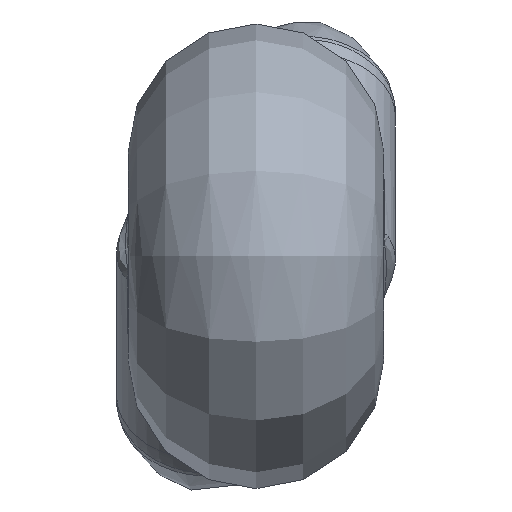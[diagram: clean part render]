
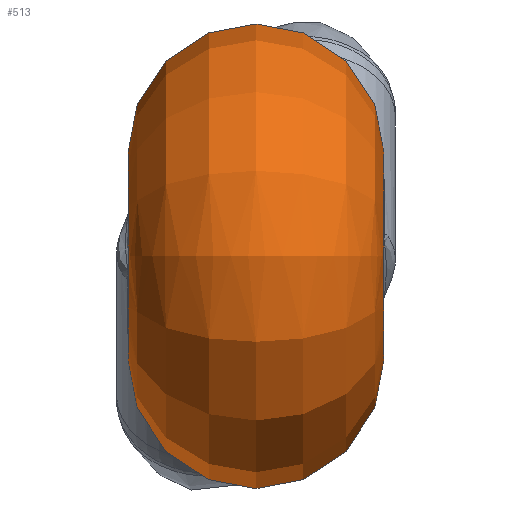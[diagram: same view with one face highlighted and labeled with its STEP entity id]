
A CAD part, left-side view. The second image highlights one B-rep face of the part: STEP entity #513.
In plain terms, the highlighted free-form (B-spline) face has degree [2, 2] with [5, 9] control points.
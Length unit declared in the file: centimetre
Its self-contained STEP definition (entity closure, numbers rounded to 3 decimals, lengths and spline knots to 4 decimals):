
#16=(
BOUNDED_CURVE()
B_SPLINE_CURVE(2,(#1909,#1910,#1911,#1912,#1913),.UNSPECIFIED.,.F.,.F.)
B_SPLINE_CURVE_WITH_KNOTS((3,2,3),(-1.5708,0.,
1.5708),.UNSPECIFIED.)
CURVE()
GEOMETRIC_REPRESENTATION_ITEM()
RATIONAL_B_SPLINE_CURVE((1.,0.707,1.,0.707,1.))
REPRESENTATION_ITEM('')
);
#17=(
BOUNDED_SURFACE()
B_SPLINE_SURFACE(2,2,((#1861,#1862,#1863,#1864,#1865,#1866,#1867,#1868,
#1869),(#1870,#1871,#1872,#1873,#1874,#1875,#1876,#1877,#1878),(#1879,#1880,
#1881,#1882,#1883,#1884,#1885,#1886,#1887),(#1888,#1889,#1890,#1891,#1892,
#1893,#1894,#1895,#1896),(#1897,#1898,#1899,#1900,#1901,#1902,#1903,#1904,
#1905)),.UNSPECIFIED.,.F.,.T.,.F.)
B_SPLINE_SURFACE_WITH_KNOTS((3,2,3),(3,2,2,2,3),(-1.5708,0.,
1.5708),(-3.1416,-1.5708,0.,1.5708,
3.1416),.UNSPECIFIED.)
GEOMETRIC_REPRESENTATION_ITEM()
RATIONAL_B_SPLINE_SURFACE(((1.,0.707,1.,0.707,1.,
0.707,1.,0.707,1.),(0.707,0.5,0.707,
0.5,0.707,0.5,0.707,0.5,0.707),(1.,
0.707,1.,0.707,1.,0.707,1.,0.707,
1.),(0.707,0.5,0.707,0.5,0.707,0.5,
0.707,0.5,0.707),(1.,0.707,1.,0.707,
1.,0.707,1.,0.707,1.)))
REPRESENTATION_ITEM('')
SURFACE()
);
#72=B_SPLINE_CURVE_WITH_KNOTS('',3,(#1839,#1840,#1841,#1842,#1843,#1844,
#1845,#1846,#1847,#1848,#1849,#1850,#1851,#1852,#1853,#1854,#1855),
 .UNSPECIFIED.,.F.,.F.,(4,1,1,1,1,1,1,1,1,1,1,1,1,1,4),(-1.3906,
-1.3161,-1.2913,-1.1919,-0.9933,
-0.894,-0.7946,-0.7201,-0.596,
-0.4966,-0.3973,-0.298,-0.1987,
-0.0993,0.),.UNSPECIFIED.);
#73=B_SPLINE_CURVE_WITH_KNOTS('',3,(#1917,#1918,#1919,#1920,#1921,#1922,
#1923,#1924,#1925,#1926,#1927,#1928,#1929,#1930,#1931,#1932,#1933),
 .UNSPECIFIED.,.F.,.F.,(4,1,1,1,1,1,1,1,1,1,1,1,1,1,4),(-1.3906,
-1.3161,-1.2913,-1.192,-0.9933,
-0.894,-0.7946,-0.6953,-0.596,
-0.4967,-0.3973,-0.298,-0.1987,
-0.0993,0.),.UNSPECIFIED.);
#120=FACE_OUTER_BOUND('',#159,.T.);
#159=EDGE_LOOP('',(#401,#402,#403,#404,#405,#406,#407,#408));
#192=CIRCLE('',#552,0.225);
#193=CIRCLE('',#553,0.225);
#194=CIRCLE('',#554,0.225);
#195=CIRCLE('',#555,0.225);
#234=VERTEX_POINT('',#1836);
#235=VERTEX_POINT('',#1838);
#236=VERTEX_POINT('',#1906);
#237=VERTEX_POINT('',#1908);
#238=VERTEX_POINT('',#1914);
#239=VERTEX_POINT('',#1916);
#293=EDGE_CURVE('',#234,#235,#72,.T.);
#297=EDGE_CURVE('',#234,#236,#192,.T.);
#298=EDGE_CURVE('',#236,#237,#16,.T.);
#299=EDGE_CURVE('',#237,#238,#193,.T.);
#300=EDGE_CURVE('',#239,#238,#73,.T.);
#301=EDGE_CURVE('',#239,#237,#194,.T.);
#302=EDGE_CURVE('',#236,#235,#195,.T.);
#401=ORIENTED_EDGE('',*,*,#293,.F.);
#402=ORIENTED_EDGE('',*,*,#297,.T.);
#403=ORIENTED_EDGE('',*,*,#298,.T.);
#404=ORIENTED_EDGE('',*,*,#299,.T.);
#405=ORIENTED_EDGE('',*,*,#300,.F.);
#406=ORIENTED_EDGE('',*,*,#301,.T.);
#407=ORIENTED_EDGE('',*,*,#298,.F.);
#408=ORIENTED_EDGE('',*,*,#302,.T.);
#513=ADVANCED_FACE('',(#120),#17,.F.);
#552=AXIS2_PLACEMENT_3D('',#1907,#624,#625);
#553=AXIS2_PLACEMENT_3D('',#1915,#626,#627);
#554=AXIS2_PLACEMENT_3D('',#1934,#628,#629);
#555=AXIS2_PLACEMENT_3D('',#1935,#630,#631);
#624=DIRECTION('center_axis',(0.,-1.,0.));
#625=DIRECTION('ref_axis',(-1.,0.,0.));
#626=DIRECTION('center_axis',(0.,1.,0.));
#627=DIRECTION('ref_axis',(-1.,0.,0.));
#628=DIRECTION('center_axis',(0.,1.,0.));
#629=DIRECTION('ref_axis',(-1.,0.,0.));
#630=DIRECTION('center_axis',(0.,-1.,0.));
#631=DIRECTION('ref_axis',(-1.,0.,0.));
#1836=CARTESIAN_POINT('',(0.2161,0.35,0.0626));
#1838=CARTESIAN_POINT('',(0.1597,0.35,-0.1585));
#1839=CARTESIAN_POINT('Ctrl Pts',(0.2161,0.35,0.0626));
#1840=CARTESIAN_POINT('Ctrl Pts',(0.2333,0.35,0.045));
#1841=CARTESIAN_POINT('Ctrl Pts',(0.2575,0.3491,0.0228));
#1842=CARTESIAN_POINT('Ctrl Pts',(0.3136,0.3375,-0.0077));
#1843=CARTESIAN_POINT('Ctrl Pts',(0.4094,0.2966,-0.0265));
#1844=CARTESIAN_POINT('Ctrl Pts',(0.4886,0.1864,-0.0441));
#1845=CARTESIAN_POINT('Ctrl Pts',(0.4937,0.069,
-0.1056));
#1846=CARTESIAN_POINT('Ctrl Pts',(0.466,0.0073,
-0.1658));
#1847=CARTESIAN_POINT('Ctrl Pts',(0.4173,-0.0277,
-0.2444));
#1848=CARTESIAN_POINT('Ctrl Pts',(0.3614,-0.0182,
-0.3286));
#1849=CARTESIAN_POINT('Ctrl Pts',(0.3076,0.0451,
-0.3983));
#1850=CARTESIAN_POINT('Ctrl Pts',(0.2689,0.1345,-0.4207));
#1851=CARTESIAN_POINT('Ctrl Pts',(0.2447,0.2258,-0.3916));
#1852=CARTESIAN_POINT('Ctrl Pts',(0.2282,0.2959,-0.3253));
#1853=CARTESIAN_POINT('Ctrl Pts',(0.2097,0.3388,-0.2404));
#1854=CARTESIAN_POINT('Ctrl Pts',(0.1823,0.35,-0.1811));
#1855=CARTESIAN_POINT('Ctrl Pts',(0.1597,0.35,-0.1585));
#1861=CARTESIAN_POINT('Ctrl Pts',(-0.225,-0.2,0.));
#1862=CARTESIAN_POINT('Ctrl Pts',(-0.225,-0.2,0.225));
#1863=CARTESIAN_POINT('Ctrl Pts',(0.,-0.2,0.225));
#1864=CARTESIAN_POINT('Ctrl Pts',(0.225,-0.2,0.225));
#1865=CARTESIAN_POINT('Ctrl Pts',(0.225,-0.2,0.));
#1866=CARTESIAN_POINT('Ctrl Pts',(0.225,-0.2,-0.225));
#1867=CARTESIAN_POINT('Ctrl Pts',(0.,-0.2,-0.225));
#1868=CARTESIAN_POINT('Ctrl Pts',(-0.225,-0.2,-0.225));
#1869=CARTESIAN_POINT('Ctrl Pts',(-0.225,-0.2,0.));
#1870=CARTESIAN_POINT('Ctrl Pts',(-0.5,-0.2,0.));
#1871=CARTESIAN_POINT('Ctrl Pts',(-0.5,-0.2,0.5));
#1872=CARTESIAN_POINT('Ctrl Pts',(0.,-0.2,0.5));
#1873=CARTESIAN_POINT('Ctrl Pts',(0.5,-0.2,0.5));
#1874=CARTESIAN_POINT('Ctrl Pts',(0.5,-0.2,0.));
#1875=CARTESIAN_POINT('Ctrl Pts',(0.5,-0.2,-0.5));
#1876=CARTESIAN_POINT('Ctrl Pts',(0.,-0.2,-0.5));
#1877=CARTESIAN_POINT('Ctrl Pts',(-0.5,-0.2,-0.5));
#1878=CARTESIAN_POINT('Ctrl Pts',(-0.5,-0.2,0.));
#1879=CARTESIAN_POINT('Ctrl Pts',(-0.5,0.075,0.));
#1880=CARTESIAN_POINT('Ctrl Pts',(-0.5,0.075,0.5));
#1881=CARTESIAN_POINT('Ctrl Pts',(0.,0.075,0.5));
#1882=CARTESIAN_POINT('Ctrl Pts',(0.5,0.075,0.5));
#1883=CARTESIAN_POINT('Ctrl Pts',(0.5,0.075,0.));
#1884=CARTESIAN_POINT('Ctrl Pts',(0.5,0.075,-0.5));
#1885=CARTESIAN_POINT('Ctrl Pts',(0.,0.075,-0.5));
#1886=CARTESIAN_POINT('Ctrl Pts',(-0.5,0.075,-0.5));
#1887=CARTESIAN_POINT('Ctrl Pts',(-0.5,0.075,0.));
#1888=CARTESIAN_POINT('Ctrl Pts',(-0.5,0.35,0.));
#1889=CARTESIAN_POINT('Ctrl Pts',(-0.5,0.35,0.5));
#1890=CARTESIAN_POINT('Ctrl Pts',(0.,0.35,0.5));
#1891=CARTESIAN_POINT('Ctrl Pts',(0.5,0.35,0.5));
#1892=CARTESIAN_POINT('Ctrl Pts',(0.5,0.35,0.));
#1893=CARTESIAN_POINT('Ctrl Pts',(0.5,0.35,-0.5));
#1894=CARTESIAN_POINT('Ctrl Pts',(0.,0.35,-0.5));
#1895=CARTESIAN_POINT('Ctrl Pts',(-0.5,0.35,-0.5));
#1896=CARTESIAN_POINT('Ctrl Pts',(-0.5,0.35,0.));
#1897=CARTESIAN_POINT('Ctrl Pts',(-0.225,0.35,0.));
#1898=CARTESIAN_POINT('Ctrl Pts',(-0.225,0.35,0.225));
#1899=CARTESIAN_POINT('Ctrl Pts',(0.,0.35,0.225));
#1900=CARTESIAN_POINT('Ctrl Pts',(0.225,0.35,0.225));
#1901=CARTESIAN_POINT('Ctrl Pts',(0.225,0.35,0.));
#1902=CARTESIAN_POINT('Ctrl Pts',(0.225,0.35,-0.225));
#1903=CARTESIAN_POINT('Ctrl Pts',(0.,0.35,-0.225));
#1904=CARTESIAN_POINT('Ctrl Pts',(-0.225,0.35,-0.225));
#1905=CARTESIAN_POINT('Ctrl Pts',(-0.225,0.35,0.));
#1906=CARTESIAN_POINT('',(-0.225,0.35,0.));
#1907=CARTESIAN_POINT('Origin',(0.,0.35,0.));
#1908=CARTESIAN_POINT('',(-0.225,-0.2,0.));
#1909=CARTESIAN_POINT('Ctrl Pts',(-0.225,0.35,0.));
#1910=CARTESIAN_POINT('Ctrl Pts',(-0.5,0.35,0.));
#1911=CARTESIAN_POINT('Ctrl Pts',(-0.5,0.075,0.));
#1912=CARTESIAN_POINT('Ctrl Pts',(-0.5,-0.2,0.));
#1913=CARTESIAN_POINT('Ctrl Pts',(-0.225,-0.2,0.));
#1914=CARTESIAN_POINT('',(0.1597,-0.2,0.1585));
#1915=CARTESIAN_POINT('Origin',(0.,-0.2,0.));
#1916=CARTESIAN_POINT('',(0.2161,-0.2,-0.0626));
#1917=CARTESIAN_POINT('Ctrl Pts',(0.2161,-0.2,-0.0626));
#1918=CARTESIAN_POINT('Ctrl Pts',(0.2333,-0.2,-0.045));
#1919=CARTESIAN_POINT('Ctrl Pts',(0.2575,-0.1991,-0.0228));
#1920=CARTESIAN_POINT('Ctrl Pts',(0.3136,-0.1875,
0.0077));
#1921=CARTESIAN_POINT('Ctrl Pts',(0.4094,-0.1466,
0.0265));
#1922=CARTESIAN_POINT('Ctrl Pts',(0.4885,-0.0364,
0.0441));
#1923=CARTESIAN_POINT('Ctrl Pts',(0.4937,0.081,
0.1056));
#1924=CARTESIAN_POINT('Ctrl Pts',(0.4634,0.1484,0.1712));
#1925=CARTESIAN_POINT('Ctrl Pts',(0.4123,0.1784,0.2519));
#1926=CARTESIAN_POINT('Ctrl Pts',(0.3574,0.1632,0.334));
#1927=CARTESIAN_POINT('Ctrl Pts',(0.3076,0.1049,0.3983));
#1928=CARTESIAN_POINT('Ctrl Pts',(0.2689,0.0155,0.4207));
#1929=CARTESIAN_POINT('Ctrl Pts',(0.2447,-0.0758,
0.3916));
#1930=CARTESIAN_POINT('Ctrl Pts',(0.2282,-0.1459,
0.3253));
#1931=CARTESIAN_POINT('Ctrl Pts',(0.2097,-0.1888,
0.2404));
#1932=CARTESIAN_POINT('Ctrl Pts',(0.1823,-0.2,0.1811));
#1933=CARTESIAN_POINT('Ctrl Pts',(0.1597,-0.2,0.1585));
#1934=CARTESIAN_POINT('Origin',(0.,-0.2,0.));
#1935=CARTESIAN_POINT('Origin',(0.,0.35,0.));
